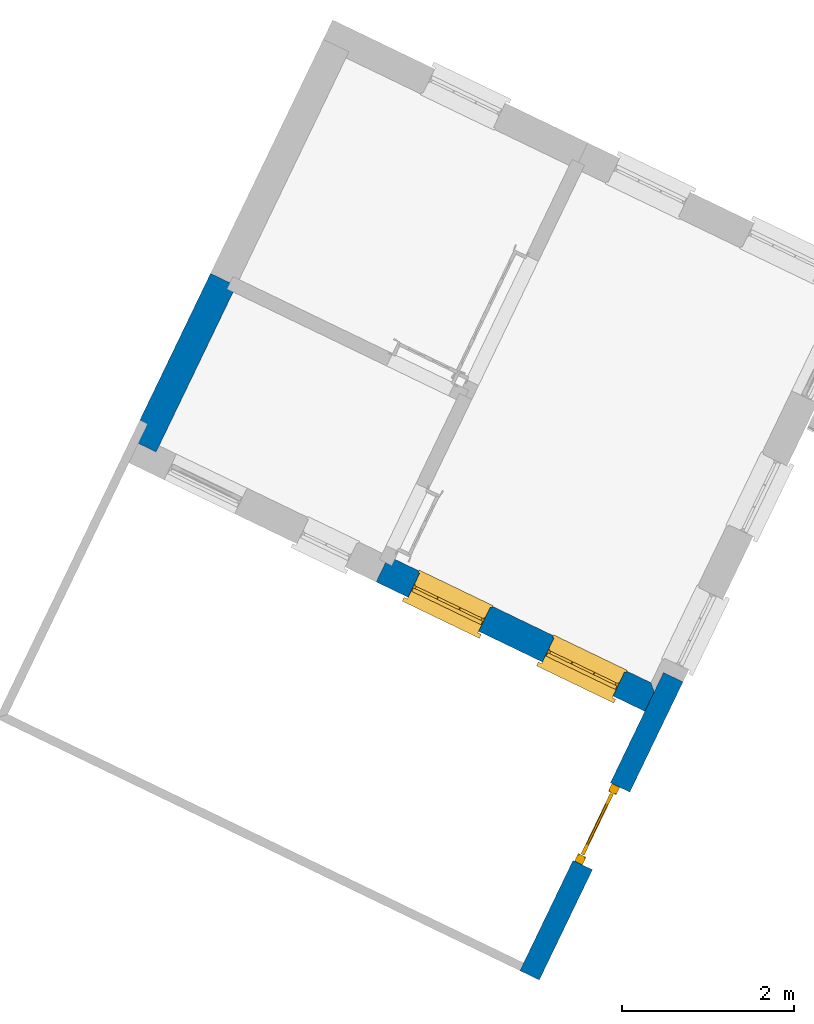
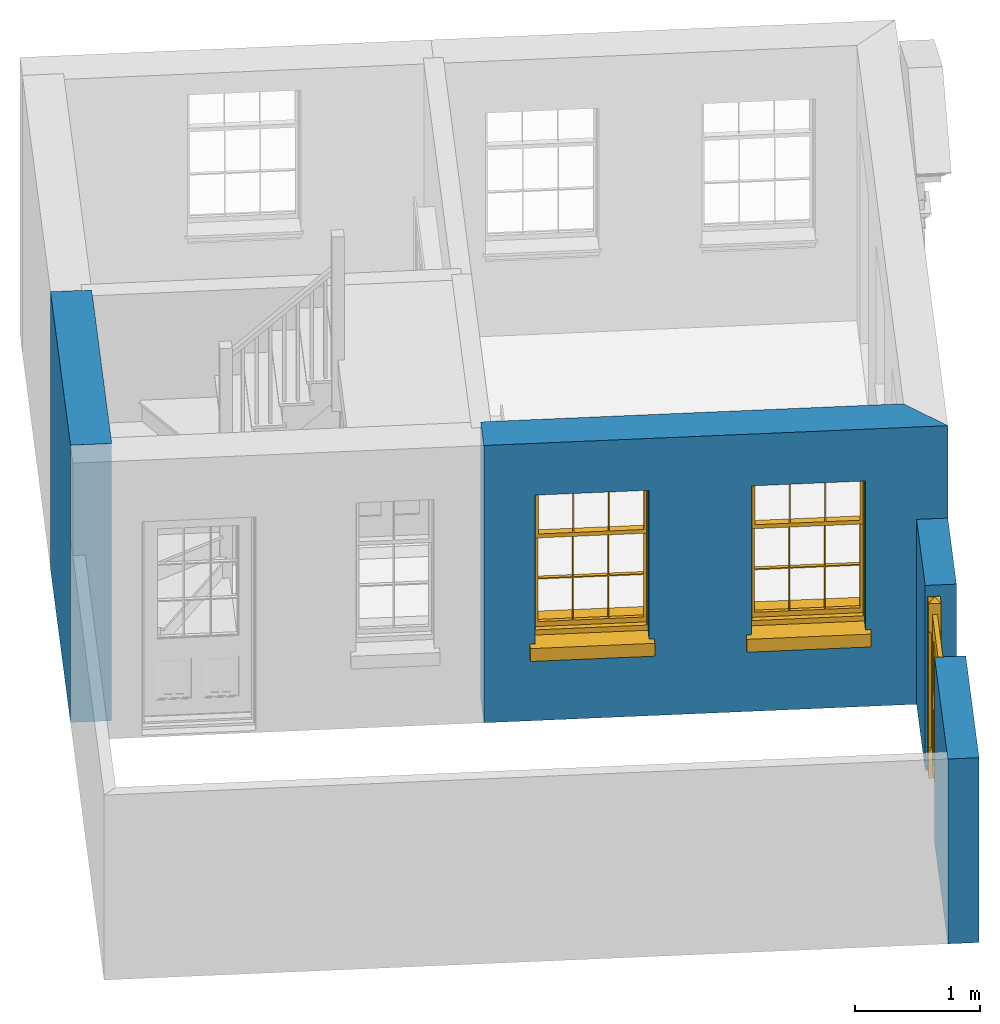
# One storey, part 2 of 5: 3 walls, 2 windows, 1 door, 3 openings.
"""IFC4 building model written with IfcOpenShell, lengths in metres."""

from ifc_helpers import new_model, si_unit, frame, origin, origin_with_axes, place, context, subcontext, project, spatial, polyline, outline, extrude, faceted_brep, source, transform, mapped, material, layer, layer_set, layer_usage, type_object, type_shapes, element, fill, save


model = new_model("IFC4")

# Units and contexts
model_context = context("Model", 3, world=origin_with_axes())
body_context = subcontext(model_context, "Body", "Model", "MODEL_VIEW")
ifc_project = project(units=[si_unit("PLANEANGLEUNIT", "RADIAN"), si_unit("MASSUNIT", "GRAM", prefix="KILO"), si_unit("FORCEUNIT", "NEWTON", prefix="KILO"), si_unit("LENGTHUNIT", "METRE"), si_unit("AREAUNIT", "SQUARE_METRE"), si_unit("VOLUMEUNIT", "CUBIC_METRE")], contexts=[model_context, model_context])

# Sites, building, storey
site_1_placement = place(None, origin_with_axes())
site_1 = spatial("IfcSite", under=ifc_project, at=site_1_placement, Name="Tamar")
site_2_placement = place(site_1_placement, origin_with_axes())
site_2 = spatial("IfcSite", under=site_1, at=site_2_placement, Name="Site plot-2", CompositionType="ELEMENT")
building_placement = place(None, origin_with_axes())
building = spatial("IfcBuilding", under=site_2, at=building_placement, Name="Building plot-2", CompositionType="ELEMENT")
storey_placement = place(None, frame((0.0, 0.0, 26.0), z_axis=(0.0, 0.0, 1.0), x_axis=(1.0, 0.0, 0.0)))
storey = spatial("IfcBuildingStorey", under=building, at=storey_placement, Name="plot-2 0", CompositionType="ELEMENT", Elevation=26.0)

# Wall, openings, windows
ifc_material_1 = material(Name="Masonry")
ifc_layer_1 = layer(ifc_material_1, 0.33, ventilated=False)
ifc_layer_set_1 = layer_set([ifc_layer_1], Name="exterior_0.08_0.25")
ifc_layer_usage_1 = layer_usage(ifc_layer_set_1, "AXIS2", "POSITIVE", -0.25)
wall_type_1 = type_object("IfcWallType", Name="exterior_0.08_0.25", PredefinedType="SOLIDWALL", material=ifc_layer_set_1)
wall_1_placement = place(storey_placement, frame((230.453722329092, 289.990230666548, 0.0), z_axis=(0.0, 0.0, 1.0), x_axis=(0.900856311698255, -0.434117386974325, 0.0)))
wall_1 = element("IfcWall", 1, at=wall_1_placement, inside=storey, type_object=wall_type_1, material=ifc_layer_usage_1, Name="exterior", context=body_context, shape_type="SweptSolid", body=[
    extrude(outline(polyline([(-7.8110715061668e-15, 0.0800000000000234), (-3.77935070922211e-14, -0.249999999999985), (3.71234567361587, -0.250000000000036), (3.38234567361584, 0.0800000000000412), (-7.8110715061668e-15, 0.0800000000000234)])), origin_with_axes(), (0.0, 0.0, 1.0), 2.7),
])
opening_1_placement = place(wall_1_placement, frame((0.410586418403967, 0.0, 0.75)))
opening_1 = element("IfcOpeningElement", 2, at=opening_1_placement, cuts=wall_1, Name="My Opening", ObjectType="Opening", context=body_context, shape_type="SweptSolid", body=[
    extrude(outline(polyline([(0.0, -0.269999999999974), (0.90999999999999, -0.269999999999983), (0.910000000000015, 1.1), (2.53130849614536e-14, 1.10000000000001), (0.0, -0.269999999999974)])), origin_with_axes(), (0.0, 0.0, 1.0), 1.445),
])
opening_2_placement = place(wall_1_placement, frame((2.14175925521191, 0.0, 0.75)))
opening_2 = element("IfcOpeningElement", 3, at=opening_2_placement, cuts=wall_1, Name="My Opening", ObjectType="Opening", context=body_context, shape_type="SweptSolid", body=[
    extrude(outline(polyline([(0.0, -0.270000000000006), (0.90999999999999, -0.270000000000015), (0.910000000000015, 1.09999999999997), (2.53130849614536e-14, 1.09999999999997), (0.0, -0.270000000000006)])), origin_with_axes(), (0.0, 0.0, 1.0), 1.445),
])
window_type = type_object("IfcWindowType", Name="sash_shorter", PartitioningType="DOUBLE_PANEL_HORIZONTAL", PredefinedType="NOTDEFINED")
shared_shape_1 = source(origin(), body_context, "Body", "Brep", [
    faceted_brep([(0.876875, 0.145, 0.999097), (0.876875, 0.145, 1.411875), (0.9, 0.145, 1.435), (0.033125, 0.145, 1.411875), (0.033125, 0.145, 0.999097), (0.01, 0.145, 1.435), (0.033125, 0.115, 1.411875), (0.01, 0.115, 1.435), (0.033125, 0.115, 0.999097), (0.876875, 0.115, 1.411875), (0.876875, 0.115, 0.999097), (0.9, 0.115, 1.435), (0.033125, 0.145, 0.960972), (0.01, 0.145, 0.960972), (0.033125, 0.145, 0.548195), (0.876875, 0.145, 0.960972), (0.876875, 0.145, 0.548195), (0.9, 0.145, 0.960972), (0.876875, 0.145, 0.538195), (0.876875, 0.145, 0.125417), (0.9, 0.145, 0.077167), (0.033125, 0.145, 0.125417), (0.033125, 0.145, 0.538195), (0.01, 0.145, 0.077167), (0.9, 0.115, 0.960972), (0.01, 0.115, 0.960972), (-0.0425, 0.0, 0.01), (-0.0425, -0.05, 0.001667), (0.0, 0.0, 0.01), (0.9525, 0.0, 0.01), (0.91, 0.0, 0.01), (0.9525, -0.05, 0.001667), (-0.02, 0.33, 0.077167), (0.0, 0.33, 0.077167), (-0.02, 0.36, 0.077167), (0.0, 0.19, 0.077167), (0.01, 0.19, 0.077167), (0.91, 0.19, 0.077167), (0.91, 0.33, 0.077167), (0.9, 0.19, 0.077167), (0.93, 0.33, 0.077167), (0.93, 0.36, 0.077167), (0.01, 0.145, 0.999097), (0.01, 0.175, 0.999097), (0.9, 0.145, 0.999097), (0.9, 0.175, 0.999097), (0.876875, 0.175, 0.125417), (0.876875, 0.175, 0.538195), (0.9, 0.175, 0.077167), (0.876875, 0.175, 0.548195), (0.876875, 0.175, 0.960972), (0.033125, 0.175, 0.125417), (0.01, 0.175, 0.077167), (0.033125, 0.175, 0.538195), (0.033125, 0.175, 0.960972), (0.033125, 0.175, 0.548195), (-0.02, 0.33, 0.052167), (-0.02, 0.36, 0.052167), (0.93, 0.36, 0.052167), (0.93, 0.33, 0.052167), (0.91, 0.33, 0.052167), (0.0, 0.33, 0.052167), (0.91, 0.1, 0.026667), (0.0, 0.1, 0.026667), (-0.0425, -0.05, -0.123333), (0.9525, -0.05, -0.123333), (-0.0425, 0.0, -0.123333), (0.9525, 0.0, -0.123333), (0.01, 0.19, 1.435), (0.9, 0.19, 1.435), (0.0, 0.19, 1.445), (0.91, 0.19, 1.445), (0.01, 0.1, 0.077167), (0.9, 0.1, 0.077167), (0.592292, 0.145, 0.125417), (0.592292, 0.175, 0.125417), (0.317708, 0.175, 0.125417), (0.317708, 0.145, 0.125417), (0.592292, 0.145, 0.548195), (0.317708, 0.145, 0.548195), (0.317708, 0.145, 0.538195), (0.592292, 0.145, 0.538195), (0.592292, 0.175, 0.548195), (0.317708, 0.175, 0.548195), (0.602292, 0.175, 0.548195), (0.602292, 0.145, 0.548195), (0.317708, 0.175, 0.538195), (0.307708, 0.175, 0.125417), (0.307708, 0.175, 0.538195), (0.602292, 0.175, 0.538195), (0.602292, 0.175, 0.125417), (0.592292, 0.175, 0.538195), (0.307708, 0.175, 0.548195), (0.317708, 0.175, 0.960972), (0.307708, 0.175, 0.960972), (0.602292, 0.175, 0.960972), (0.592292, 0.175, 0.960972), (0.307708, 0.145, 0.538195), (0.307708, 0.145, 0.125417), (0.307708, 0.145, 0.548195), (0.307708, 0.145, 0.960972), (0.592292, 0.145, 0.960972), (0.317708, 0.145, 0.960972), (0.602292, 0.145, 0.960972), (0.602292, 0.145, 0.538195), (0.602292, 0.145, 0.125417), (0.317708, 0.115, 1.411875), (0.307708, 0.115, 1.411875), (0.307708, 0.115, 0.999097), (0.317708, 0.115, 0.999097), (0.602292, 0.115, 1.411875), (0.592292, 0.115, 1.411875), (0.592292, 0.115, 0.999097), (0.602292, 0.115, 0.999097), (0.317708, 0.145, 0.999097), (0.307708, 0.145, 0.999097), (0.307708, 0.145, 1.411875), (0.317708, 0.145, 1.411875), (0.602292, 0.145, 0.999097), (0.592292, 0.145, 0.999097), (0.592292, 0.145, 1.411875), (0.602292, 0.145, 1.411875), (0.91, 0.1, 1.445), (0.9, 0.1, 1.435), (0.01, 0.1, 1.435), (0.0, 0.1, 1.445), (0.91, 0.0, 0.0), (0.0, 0.0, 0.0), (0.91, 0.33, 0.0), (0.0, 0.33, 0.0)], [[[0, 1, 2]], [[3, 4, 5]], [[6, 7, 8]], [[9, 10, 11]], [[12, 13, 14]], [[15, 16, 17]], [[18, 19, 20]], [[21, 22, 23]], [[24, 15, 17]], [[13, 12, 25]], [[26, 27, 28]], [[29, 30, 31]], [[32, 33, 34]], [[35, 36, 33]], [[37, 38, 39]], [[40, 41, 38]], [[42, 4, 43]], [[44, 45, 0]], [[46, 47, 48]], [[49, 50, 45]], [[51, 52, 53]], [[54, 55, 43]], [[38, 33, 36, 39]], [[41, 34, 33, 38]], [[56, 32, 34, 57]], [[57, 34, 41, 58]], [[58, 41, 40, 59]], [[57, 58, 60, 61]], [[52, 48, 39, 36]], [[62, 63, 28, 30]], [[27, 31, 30, 28]], [[27, 64, 65, 31]], [[66, 67, 65, 64]], [[2, 5, 68, 69]], [[68, 70, 71, 69]], [[20, 23, 72, 73]], [[73, 72, 63, 62]], [[74, 75, 76, 77]], [[78, 79, 80, 81]], [[78, 82, 83, 79]], [[16, 49, 84, 85]], [[86, 76, 87, 88]], [[89, 90, 75, 91]], [[92, 88, 53, 55]], [[82, 91, 86, 83]], [[93, 83, 92, 94]], [[95, 84, 82, 96]], [[89, 84, 49, 47]], [[97, 88, 87, 98]], [[22, 53, 88, 97]], [[81, 91, 75, 74]], [[80, 86, 91, 81]], [[77, 76, 86, 80]], [[99, 92, 55, 14]], [[100, 94, 92, 99]], [[101, 96, 82, 78]], [[79, 83, 93, 102]], [[85, 84, 95, 103]], [[104, 89, 47, 18]], [[105, 90, 89, 104]], [[104, 18, 16, 85]], [[80, 97, 98, 77]], [[104, 81, 74, 105]], [[103, 101, 78, 85]], [[99, 14, 22, 97]], [[102, 100, 99, 79]], [[106, 107, 108, 109]], [[110, 111, 112, 113]], [[114, 115, 116, 117]], [[118, 119, 120, 121]], [[107, 116, 115, 108]], [[111, 120, 119, 112]], [[109, 114, 117, 106]], [[113, 118, 121, 110]], [[85, 78, 81, 104]], [[84, 89, 91, 82]], [[83, 86, 88, 92]], [[79, 99, 97, 80]], [[109, 112, 119, 114]], [[102, 93, 96, 101]], [[106, 117, 120, 111]], [[98, 87, 51, 21]], [[6, 3, 116, 107]], [[110, 121, 1, 9]], [[19, 46, 90, 105]], [[26, 66, 64, 27]], [[29, 31, 65, 67]], [[25, 24, 112, 109]], [[11, 7, 106, 111]], [[75, 48, 52, 76]], [[43, 45, 96, 93]], [[45, 43, 114, 119]], [[5, 2, 120, 117]], [[24, 25, 102, 101]], [[42, 5, 4]], [[2, 44, 0]], [[49, 45, 48, 47]], [[52, 43, 55, 53]], [[14, 13, 23, 22]], [[20, 17, 16, 18]], [[24, 11, 10]], [[25, 8, 7]], [[8, 4, 3, 6]], [[9, 1, 0, 10]], [[15, 50, 49, 16]], [[18, 47, 46, 19]], [[21, 51, 53, 22]], [[14, 55, 54, 12]], [[44, 2, 69, 45]], [[68, 5, 42, 43]], [[36, 35, 70, 68]], [[39, 69, 71, 37]], [[62, 122, 123, 73]], [[63, 72, 124, 125]], [[8, 108, 115, 4]], [[113, 10, 0, 118]], [[94, 100, 12, 54]], [[17, 20, 73, 24]], [[72, 23, 13, 25]], [[52, 36, 68, 43]], [[69, 39, 48, 45]], [[11, 24, 73, 123]], [[7, 124, 72, 25]], [[23, 77, 98]], [[98, 21, 23]], [[105, 74, 20]], [[20, 19, 105]], [[20, 74, 77, 23]], [[113, 112, 24]], [[24, 10, 113]], [[25, 109, 108]], [[108, 8, 25]], [[110, 9, 11]], [[11, 111, 110]], [[7, 6, 107]], [[107, 106, 7]], [[5, 117, 116]], [[116, 3, 5]], [[121, 120, 2]], [[2, 1, 121]], [[11, 123, 124, 7]], [[122, 125, 124, 123]], [[43, 93, 94]], [[94, 54, 43]], [[96, 45, 95]], [[50, 95, 45]], [[15, 103, 95, 50]], [[48, 75, 90]], [[90, 46, 48]], [[87, 76, 52]], [[52, 51, 87]], [[103, 15, 24]], [[24, 101, 103]], [[100, 102, 25]], [[25, 12, 100]], [[115, 114, 43]], [[43, 4, 115]], [[118, 0, 45]], [[45, 119, 118]], [[71, 70, 125, 122]], [[70, 35, 63, 125]], [[122, 62, 37, 71]], [[126, 67, 66, 127]], [[60, 58, 59]], [[38, 60, 59, 40]], [[61, 56, 57]], [[32, 56, 61, 33]], [[61, 60, 128, 129]], [[62, 60, 38, 37]], [[126, 128, 60, 62]], [[33, 61, 63, 35]], [[61, 129, 127, 63]], [[128, 126, 127, 129]], [[28, 127, 66, 26]], [[63, 127, 28]], [[29, 67, 126, 30]], [[30, 126, 62]]]),
])
type_shapes(window_type, [shared_shape_1])
window_1_placement = place(storey_placement, frame((230.706390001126, 289.568756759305, 0.75), z_axis=(0.0, 0.0, 1.0), x_axis=(0.819779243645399, -0.395046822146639, 0.0)))
window_1 = element("IfcWindow", 4, at=window_1_placement, inside=storey, type_object=window_type, Name="living sahn window", OverallHeight=1.445, OverallWidth=0.91, context=body_context, shape_type="MappedRepresentation", body=[
    mapped(shared_shape_1, transform((0.0, 0.0, 0.0), scale=1.0)),
])
fill(opening_1, window_1)
window_2_placement = place(storey_placement, frame((232.265927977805, 288.817224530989, 0.75), z_axis=(0.0, 0.0, 1.0), x_axis=(0.819779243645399, -0.395046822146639, 0.0)))
window_2 = element("IfcWindow", 5, at=window_2_placement, inside=storey, type_object=window_type, Name="living sahn window", OverallHeight=1.445, OverallWidth=0.91, context=body_context, shape_type="MappedRepresentation", body=[
    mapped(shared_shape_1, transform((0.0, 0.0, 0.0), scale=1.0)),
])
fill(opening_2, window_2)

# Wall
ifc_material_2 = material(Name="Masonry")
ifc_layer_2 = layer(ifc_material_2, 0.33, ventilated=False)
ifc_layer_set_2 = layer_set([ifc_layer_2], Name="party_0.08_0.25")
ifc_layer_usage_2 = layer_usage(ifc_layer_set_2, "AXIS2", "POSITIVE", -0.25)
wall_type_2 = type_object("IfcWallType", Name="party_0.08_0.25", PredefinedType="SOLIDWALL", material=ifc_layer_set_2)
wall_2_placement = place(storey_placement, frame((228.646725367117, 293.237761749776, 0.0), z_axis=(0.0, 0.0, 1.0), x_axis=(-0.43411738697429, -0.900856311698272, 0.0)))
element("IfcWall", 6, at=wall_2_placement, inside=storey, type_object=wall_type_2, material=ifc_layer_usage_2, Name="party", context=body_context, shape_type="SweptSolid", body=[
    extrude(outline(polyline([(-1.7991426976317e-14, 0.0799999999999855), (-9.64363222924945e-15, -0.249999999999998), (2.14111007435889, -0.249999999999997), (2.14111007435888, 0.0799999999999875), (-1.7991426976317e-14, 0.0799999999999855)])), origin_with_axes(), (0.0, 0.0, 1.0), 2.7),
])

# Wall, opening, door
ifc_material_3 = material(Name="Masonry")
ifc_layer_3 = layer(ifc_material_3, 0.25, ventilated=False)
ifc_layer_set_3 = layer_set([ifc_layer_3], Name="fence_0_0.25")
ifc_layer_usage_3 = layer_usage(ifc_layer_set_3, "AXIS2", "POSITIVE", -0.25)
wall_type_3 = type_object("IfcWallType", Name="fence_0_0.25", PredefinedType="SOLIDWALL", material=ifc_layer_set_3)
wall_3_placement = place(storey_placement, frame((232.122011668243, 285.476574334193, 0.0), z_axis=(0.0, 0.0, 1.0), x_axis=(0.434117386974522, 0.900856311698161, 0.0)))
wall_3 = element("IfcWall", 7, at=wall_3_placement, inside=storey, type_object=wall_type_3, material=ifc_layer_usage_3, Name="fence", context=body_context, shape_type="SweptSolid", body=[
    extrude(outline(polyline([(-0.249999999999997, 9.02342266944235e-15), (-0.250000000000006, -0.249999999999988), (3.5919223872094, -0.250000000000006), (3.59192238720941, -8.77323686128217e-15), (-0.249999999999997, 9.02342266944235e-15)])), origin_with_axes(), (0.0, 0.0, 1.0), 1.8),
])
opening_3_placement = place(wall_3_placement, frame((1.17096119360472, 0.0, -0.0100000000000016)))
opening_3 = element("IfcOpeningElement", 8, at=opening_3_placement, cuts=wall_3, Name="My Opening", ObjectType="Opening", context=body_context, shape_type="SweptSolid", body=[
    extrude(outline(polyline([(0.0, -0.269999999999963), (0.999999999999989, -0.269999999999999), (0.999999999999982, 1.01999999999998), (-6.43929354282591e-15, 1.02000000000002), (0.0, -0.269999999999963)])), origin_with_axes(), (0.0, 0.0, 1.0), 1.81),
])
door_type = type_object("IfcDoorType", Name="gate-small", OperationType="SINGLE_SWING_LEFT", PredefinedType="NOTDEFINED")
shared_shape_2 = source(origin(), body_context, "Body", "Brep", [
    faceted_brep([(0.9, 0.25, 1.7), (0.9, 0.15, 1.7), (0.95, 0.2, 1.73), (1.0, 0.15, 1.433333), (1.0, 0.15, 1.7), (0.9, 0.15, 1.433333), (0.9, 0.25, 1.433333), (0.9, 0.25, 0.0), (1.0, 0.25, 0.0), (1.0, 0.15, 0.0), (0.9, 0.15, 0.0), (1.0, 0.25, 1.433333), (1.0, 0.25, 1.7), (0.9, 0.25, 0.266667), (1.0, 0.25, 0.266667), (1.0, 0.25, 0.291667), (0.925, 0.25, 0.291667), (0.925, 0.25, 1.408333), (1.0, 0.25, 1.408333), (1.0, 0.15, 0.266667), (1.0, 0.15, 0.291667), (1.0, 0.15, 1.408333), (0.9, 0.15, 0.266667), (0.9, 0.175, 0.291667), (0.9, 0.225, 0.291667), (0.925, 0.15, 0.291667), (0.9, 0.175, 1.408333), (0.925, 0.15, 1.408333), (0.9, 0.225, 1.408333), (0.0, 0.25, 1.7), (0.0, 0.15, 1.7), (0.05, 0.2, 1.73), (0.0, 0.25, 1.433333), (0.1, 0.25, 1.7), (0.1, 0.25, 1.433333), (0.1, 0.15, 1.7), (0.1, 0.15, 1.433333), (0.1, 0.15, 0.0), (0.0, 0.15, 0.0), (0.0, 0.25, 0.0), (0.1, 0.25, 0.0), (0.0, 0.15, 1.433333), (0.1, 0.15, 0.266667), (0.0, 0.15, 0.266667), (0.0, 0.15, 0.291667), (0.075, 0.15, 0.291667), (0.075, 0.15, 1.408333), (0.0, 0.15, 1.408333), (0.0, 0.25, 0.266667), (0.0, 0.25, 0.291667), (0.0, 0.25, 1.408333), (0.1, 0.25, 0.266667), (0.1, 0.225, 0.291667), (0.1, 0.175, 0.291667), (0.075, 0.25, 0.291667), (0.1, 0.225, 1.408333), (0.075, 0.25, 1.408333), (0.1, 0.175, 1.408333), (0.11, 0.18, 1.433333), (0.11, 0.18, 1.6), (0.11, 0.22, 1.6), (0.11, 0.22, 1.433333), (0.76, 0.22, 1.433333), (0.76, 0.22, 1.6), (0.89, 0.22, 1.6), (0.89, 0.22, 1.433333), (0.89, 0.18, 1.6), (0.89, 0.18, 1.433333), (0.24, 0.18, 1.433333), (0.24, 0.18, 1.6), (0.76, 0.22, 0.1), (0.89, 0.22, 0.1), (0.89, 0.18, 0.1), (0.76, 0.18, 0.1), (0.24, 0.22, 1.6), (0.76, 0.18, 1.6), (0.11, 0.22, 0.1), (0.24, 0.22, 0.1), (0.24, 0.18, 0.1), (0.11, 0.18, 0.1), (0.76, 0.18, 1.433333), (0.24, 0.22, 1.433333), (0.76, 0.18, 0.266667), (0.24, 0.18, 0.266667), (0.24, 0.22, 0.933333), (0.11, 0.22, 0.933333), (0.76, 0.18, 0.933333), (0.24, 0.18, 0.933333), (0.24, 0.18, 0.766667), (0.76, 0.18, 0.766667), (0.11, 0.22, 0.766667), (0.24, 0.22, 0.766667), (0.24, 0.22, 0.266667), (0.11, 0.22, 0.266667), (0.76, 0.22, 0.766667), (0.76, 0.21, 0.766667), (0.24, 0.21, 0.766667), (0.76, 0.22, 0.933333), (0.76, 0.21, 0.933333), (0.76, 0.21, 1.433333), (0.76, 0.22, 0.266667), (0.89, 0.18, 0.766667), (0.89, 0.18, 0.266667), (0.89, 0.18, 0.933333), (0.11, 0.18, 0.766667), (0.11, 0.18, 0.266667), (0.11, 0.18, 0.933333), (0.89, 0.22, 0.766667), (0.89, 0.22, 0.266667), (0.89, 0.22, 0.933333), (0.76, 0.19, 0.266667), (0.24, 0.19, 0.266667), (0.76, 0.19, 0.933333), (0.24, 0.19, 0.933333), (0.24, 0.19, 1.433333), (0.76, 0.19, 1.433333), (0.24, 0.19, 0.766667), (0.76, 0.19, 0.766667), (0.24, 0.21, 1.433333), (0.24, 0.21, 0.933333), (0.76, 0.21, 0.266667), (0.24, 0.21, 0.266667)], [[[0, 1, 2]], [[3, 4, 1]], [[3, 1, 5]], [[5, 1, 0]], [[5, 0, 6]], [[7, 8, 9]], [[7, 9, 10]], [[11, 12, 4]], [[11, 4, 3]], [[6, 0, 12]], [[6, 12, 11]], [[7, 13, 14]], [[7, 14, 8]], [[15, 14, 13]], [[15, 13, 16]], [[17, 18, 15]], [[17, 15, 16]], [[17, 6, 11]], [[17, 11, 18]], [[8, 14, 19]], [[8, 19, 9]], [[14, 15, 20]], [[14, 20, 19]], [[15, 18, 21]], [[15, 21, 20]], [[18, 11, 3]], [[18, 3, 21]], [[10, 22, 13]], [[10, 13, 7]], [[23, 24, 13]], [[23, 13, 22]], [[25, 23, 22]], [[5, 26, 27]], [[9, 19, 22]], [[9, 22, 10]], [[19, 20, 25]], [[19, 25, 22]], [[28, 17, 16]], [[28, 16, 24]], [[21, 3, 5]], [[21, 5, 27]], [[21, 27, 25]], [[21, 25, 20]], [[25, 27, 26]], [[25, 26, 23]], [[16, 13, 24]], [[26, 28, 24]], [[26, 24, 23]], [[28, 26, 5]], [[28, 5, 6]], [[17, 28, 6]], [[29, 30, 31]], [[32, 29, 33]], [[32, 33, 34]], [[34, 33, 35]], [[34, 35, 36]], [[37, 38, 39]], [[37, 39, 40]], [[41, 30, 29]], [[41, 29, 32]], [[36, 35, 30]], [[36, 30, 41]], [[37, 42, 43]], [[37, 43, 38]], [[44, 43, 42]], [[44, 42, 45]], [[46, 47, 44]], [[46, 44, 45]], [[46, 36, 41]], [[46, 41, 47]], [[38, 43, 48]], [[38, 48, 39]], [[43, 44, 49]], [[43, 49, 48]], [[44, 47, 50]], [[44, 50, 49]], [[47, 41, 32]], [[47, 32, 50]], [[40, 51, 42]], [[40, 42, 37]], [[52, 53, 42]], [[52, 42, 51]], [[54, 52, 51]], [[34, 55, 56]], [[39, 48, 51]], [[39, 51, 40]], [[48, 49, 54]], [[48, 54, 51]], [[57, 46, 45]], [[57, 45, 53]], [[50, 32, 34]], [[50, 34, 56]], [[50, 56, 54]], [[50, 54, 49]], [[54, 56, 55]], [[54, 55, 52]], [[45, 42, 53]], [[55, 57, 53]], [[55, 53, 52]], [[57, 55, 34]], [[57, 34, 36]], [[46, 57, 36]], [[33, 29, 31]], [[35, 33, 31]], [[35, 31, 30]], [[12, 0, 2]], [[4, 12, 2]], [[4, 2, 1]], [[58, 59, 60]], [[58, 60, 61]], [[62, 63, 64]], [[62, 64, 65]], [[65, 64, 66]], [[65, 66, 67]], [[68, 69, 59]], [[68, 59, 58]], [[70, 71, 72]], [[70, 72, 73]], [[74, 60, 59]], [[74, 59, 69]], [[64, 63, 75]], [[64, 75, 66]], [[74, 69, 75]], [[74, 75, 63]], [[76, 77, 78]], [[76, 78, 79]], [[77, 70, 73]], [[77, 73, 78]], [[67, 66, 75]], [[67, 75, 80]], [[81, 74, 63]], [[81, 63, 62]], [[61, 60, 74]], [[61, 74, 81]], [[82, 83, 78]], [[82, 78, 73]], [[75, 69, 68]], [[75, 68, 80]], [[61, 81, 84]], [[61, 84, 85]], [[86, 87, 88]], [[86, 88, 89]], [[90, 91, 92]], [[90, 92, 93]], [[76, 93, 92]], [[76, 92, 77]], [[91, 94, 95]], [[91, 95, 96]], [[90, 85, 84]], [[90, 84, 91]], [[62, 97, 98]], [[62, 98, 99]], [[77, 92, 100]], [[77, 100, 70]], [[101, 89, 82]], [[101, 82, 102]], [[91, 84, 97]], [[91, 97, 94]], [[67, 80, 86]], [[67, 86, 103]], [[72, 102, 82]], [[72, 82, 73]], [[88, 104, 105]], [[88, 105, 83]], [[101, 103, 86]], [[101, 86, 89]], [[68, 58, 106]], [[68, 106, 87]], [[78, 83, 105]], [[78, 105, 79]], [[107, 101, 102]], [[107, 102, 108]], [[88, 87, 106]], [[88, 106, 104]], [[65, 67, 103]], [[65, 103, 109]], [[71, 108, 102]], [[71, 102, 72]], [[94, 107, 108]], [[94, 108, 100]], [[107, 109, 103]], [[107, 103, 101]], [[62, 65, 109]], [[62, 109, 97]], [[70, 100, 108]], [[70, 108, 71]], [[105, 104, 90]], [[105, 90, 93]], [[94, 97, 109]], [[94, 109, 107]], [[106, 58, 61]], [[106, 61, 85]], [[79, 105, 93]], [[79, 93, 76]], [[83, 82, 110]], [[83, 110, 111]], [[104, 106, 85]], [[104, 85, 90]], [[87, 86, 112]], [[87, 112, 113]], [[114, 113, 112]], [[114, 112, 115]], [[68, 87, 113]], [[68, 113, 114]], [[80, 68, 114]], [[80, 114, 115]], [[86, 80, 115]], [[86, 115, 112]], [[116, 111, 110]], [[116, 110, 117]], [[88, 83, 111]], [[88, 111, 116]], [[89, 88, 116]], [[89, 116, 117]], [[82, 89, 117]], [[82, 117, 110]], [[118, 99, 98]], [[118, 98, 119]], [[84, 81, 118]], [[84, 118, 119]], [[81, 62, 99]], [[81, 99, 118]], [[97, 84, 119]], [[97, 119, 98]], [[96, 95, 120]], [[96, 120, 121]], [[94, 100, 120]], [[94, 120, 95]], [[100, 92, 121]], [[100, 121, 120]], [[92, 91, 96]], [[92, 96, 121]]]),
])
type_shapes(door_type, [shared_shape_2])
door_placement = place(storey_placement, frame((232.873577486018, 286.414230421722, -0.0100000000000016), z_axis=(0.0, 0.0, 1.0), x_axis=(0.434117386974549, 0.900856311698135, 0.0)))
door = element("IfcDoor", 9, at=door_placement, inside=storey, type_object=door_type, Name="gate", OverallHeight=1.81, OverallWidth=1.0, context=body_context, shape_type="MappedRepresentation", body=[
    mapped(shared_shape_2, transform((0.0, 0.0, 0.0), scale=1.0)),
])
fill(opening_3, door)

save(model, "model.ifc")
